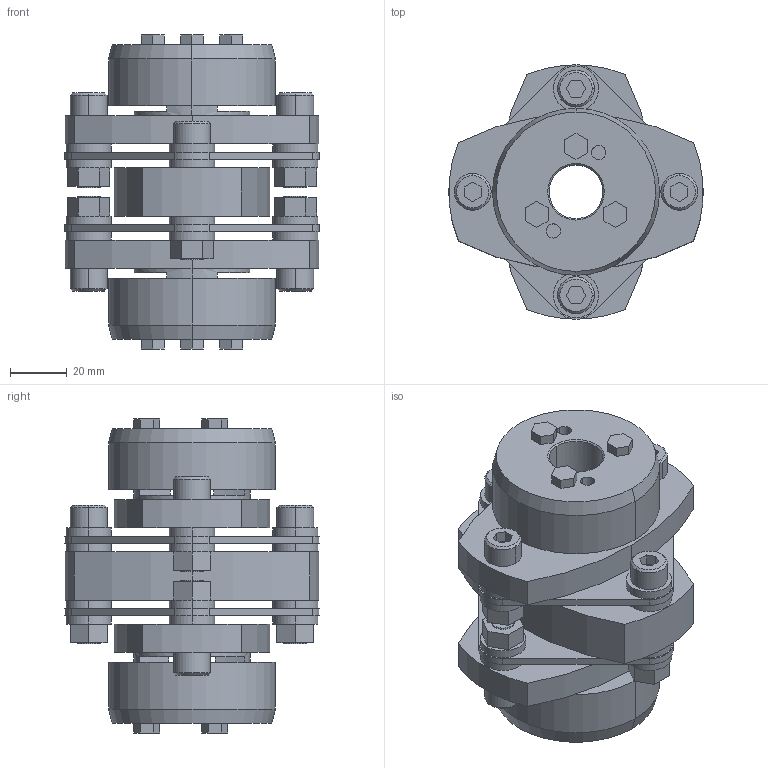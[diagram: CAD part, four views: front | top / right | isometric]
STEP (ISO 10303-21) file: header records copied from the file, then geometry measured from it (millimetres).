
FILE_DESCRIPTION((''),'2;1');
FILE_NAME('LCD-90T7-19×20.stp','2011-09-09T10:29:35',(''),(''),'AutoCAD STEP 2000i','AutoCAD 2000i',', , ');
FILE_SCHEMA(('CONFIG_CONTROL_DESIGN'));
Length unit declared in the file: millimetre
Products named in the file (5): LCD-90T7-19×19; 忣兜1; LC90T7-T019-1; LC90T7-T019; LCD90-ITA
Assembly tree (4 placements, depth 2):
  LCD-90T7-19×19
    忣兜1
    LC90T7-T019-1
    LC90T7-T019
    LCD90-ITA
Bounding box: 90 x 89.94 x 111 mm (x, y, z)
Volume: 277916.6 mm3; surface area: 73924.2 mm2
Topology: 1 solids, 1 shells, 320 faces, 780 edges, 512 vertices
Faces by surface type: plane 176, cylinder 120, cone 24
Entity records: 9635 total; most frequent: DIRECTION 1710, CARTESIAN_POINT 1617, ORIENTED_EDGE 1560, EDGE_CURVE 780, AXIS2_PLACEMENT_3D 605, VERTEX_POINT 512, VECTOR 500, LINE 500
